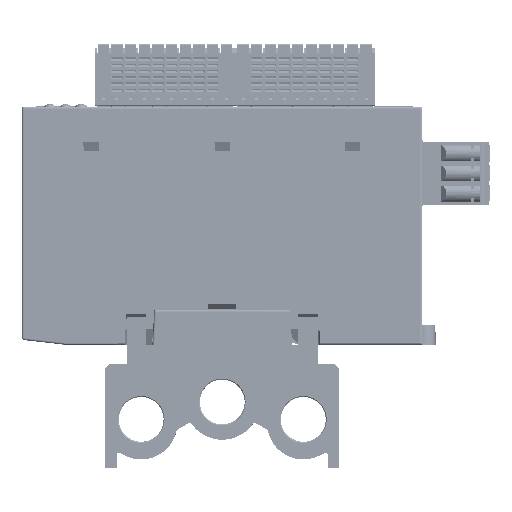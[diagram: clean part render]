
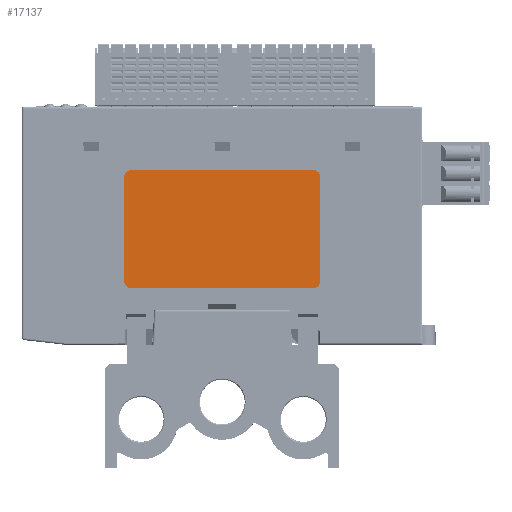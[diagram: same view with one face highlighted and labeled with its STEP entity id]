
A CAD part, front view. The second image highlights one B-rep face of the part: STEP entity #17137.
In plain terms, the highlighted planar face has unit normal (0, -1, 0).
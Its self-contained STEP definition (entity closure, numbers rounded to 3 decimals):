
#7594=FACE_OUTER_BOUND('',#72457,.T.);
#17137=ADVANCED_FACE('',(#7594),#26852,.F.);
#26852=PLANE('',#183596);
#34617=LINE('',#255643,#52823);
#34621=LINE('',#255651,#52827);
#34623=LINE('',#255655,#52829);
#34626=LINE('',#255663,#52832);
#52823=VECTOR('',#201649,1.);
#52827=VECTOR('',#201655,1.);
#52829=VECTOR('',#201659,1.);
#52832=VECTOR('',#201666,1.);
#72457=EDGE_LOOP('',(#86374,#86375,#86376,#86377,#86378,#86379,#86380,#86381));
#86374=ORIENTED_EDGE('',*,*,#154150,.F.);
#86375=ORIENTED_EDGE('',*,*,#154155,.T.);
#86376=ORIENTED_EDGE('',*,*,#154156,.F.);
#86377=ORIENTED_EDGE('',*,*,#154157,.T.);
#86378=ORIENTED_EDGE('',*,*,#154152,.F.);
#86379=ORIENTED_EDGE('',*,*,#154158,.T.);
#86380=ORIENTED_EDGE('',*,*,#154146,.F.);
#86381=ORIENTED_EDGE('',*,*,#154159,.T.);
#136630=VERTEX_POINT('',#255644);
#136631=VERTEX_POINT('',#255645);
#136632=VERTEX_POINT('',#255650);
#136633=VERTEX_POINT('',#255652);
#136634=VERTEX_POINT('',#255656);
#136635=VERTEX_POINT('',#255657);
#136636=VERTEX_POINT('',#255662);
#136637=VERTEX_POINT('',#255664);
#154146=EDGE_CURVE('',#136630,#136631,#34617,.T.);
#154150=EDGE_CURVE('',#136632,#136633,#34621,.T.);
#154152=EDGE_CURVE('',#136634,#136635,#34623,.T.);
#154155=EDGE_CURVE('',#136632,#136636,#178080,.T.);
#154156=EDGE_CURVE('',#136637,#136636,#34626,.T.);
#154157=EDGE_CURVE('',#136637,#136635,#178081,.T.);
#154158=EDGE_CURVE('',#136634,#136631,#178082,.T.);
#154159=EDGE_CURVE('',#136630,#136633,#178083,.T.);
#178080=CIRCLE('',#183592,1.8);
#178081=CIRCLE('',#183593,1.8);
#178082=CIRCLE('',#183594,1.8);
#178083=CIRCLE('',#183595,1.8);
#183592=AXIS2_PLACEMENT_3D('',#255661,#201664,#201665);
#183593=AXIS2_PLACEMENT_3D('',#255665,#201667,#201668);
#183594=AXIS2_PLACEMENT_3D('',#255666,#201669,#201670);
#183595=AXIS2_PLACEMENT_3D('',#255667,#201671,#201672);
#183596=AXIS2_PLACEMENT_3D('',#255668,#201673,#201674);
#201649=DIRECTION('',(0.,0.,-1.));
#201655=DIRECTION('',(1.,0.,0.));
#201659=DIRECTION('',(-1.,0.,0.));
#201664=DIRECTION('',(0.,-1.,0.));
#201665=DIRECTION('',(0.,0.,1.));
#201666=DIRECTION('',(0.,0.,1.));
#201667=DIRECTION('',(0.,-1.,0.));
#201668=DIRECTION('',(0.,0.,-1.));
#201669=DIRECTION('',(0.,-1.,0.));
#201670=DIRECTION('',(0.,0.,-1.));
#201671=DIRECTION('',(0.,-1.,0.));
#201672=DIRECTION('',(0.,0.,-1.));
#201673=DIRECTION('',(0.,1.,0.));
#201674=DIRECTION('',(0.,0.,-1.));
#255643=CARTESIAN_POINT('',(525.15,597.86,34.634));
#255644=CARTESIAN_POINT('',(525.15,597.86,47.934));
#255645=CARTESIAN_POINT('',(525.15,597.86,21.334));
#255650=CARTESIAN_POINT('',(476.75,597.86,49.734));
#255651=CARTESIAN_POINT('',(500.05,597.86,49.734));
#255652=CARTESIAN_POINT('',(523.35,597.86,49.734));
#255655=CARTESIAN_POINT('',(475.05,597.86,19.534));
#255656=CARTESIAN_POINT('',(523.35,597.86,19.534));
#255657=CARTESIAN_POINT('',(476.75,597.86,19.534));
#255661=CARTESIAN_POINT('',(476.75,597.86,47.934));
#255662=CARTESIAN_POINT('',(474.95,597.86,47.934));
#255663=CARTESIAN_POINT('',(474.95,597.86,34.634));
#255664=CARTESIAN_POINT('',(474.95,597.86,21.334));
#255665=CARTESIAN_POINT('',(476.75,597.86,21.334));
#255666=CARTESIAN_POINT('',(523.35,597.86,21.334));
#255667=CARTESIAN_POINT('',(523.35,597.86,47.934));
#255668=CARTESIAN_POINT('',(500.041,597.86,23.341));
